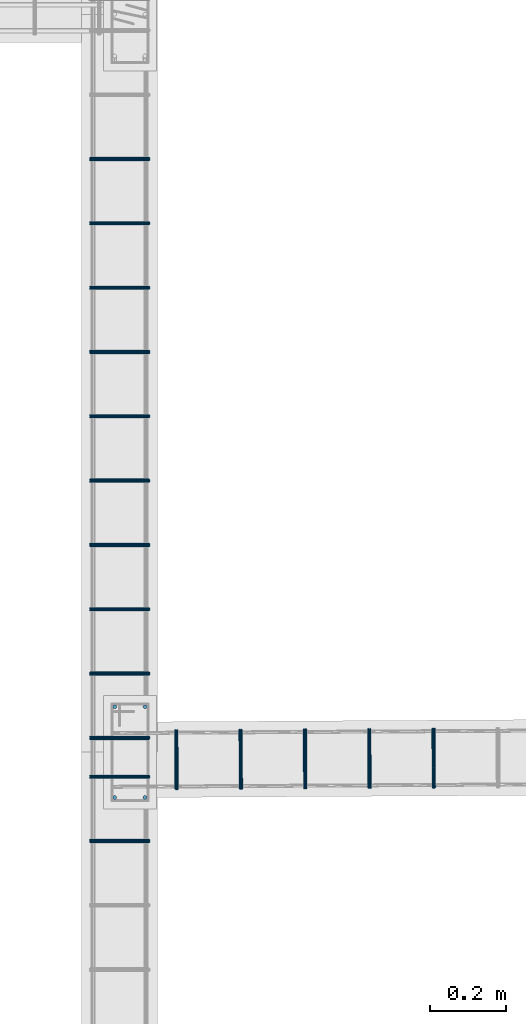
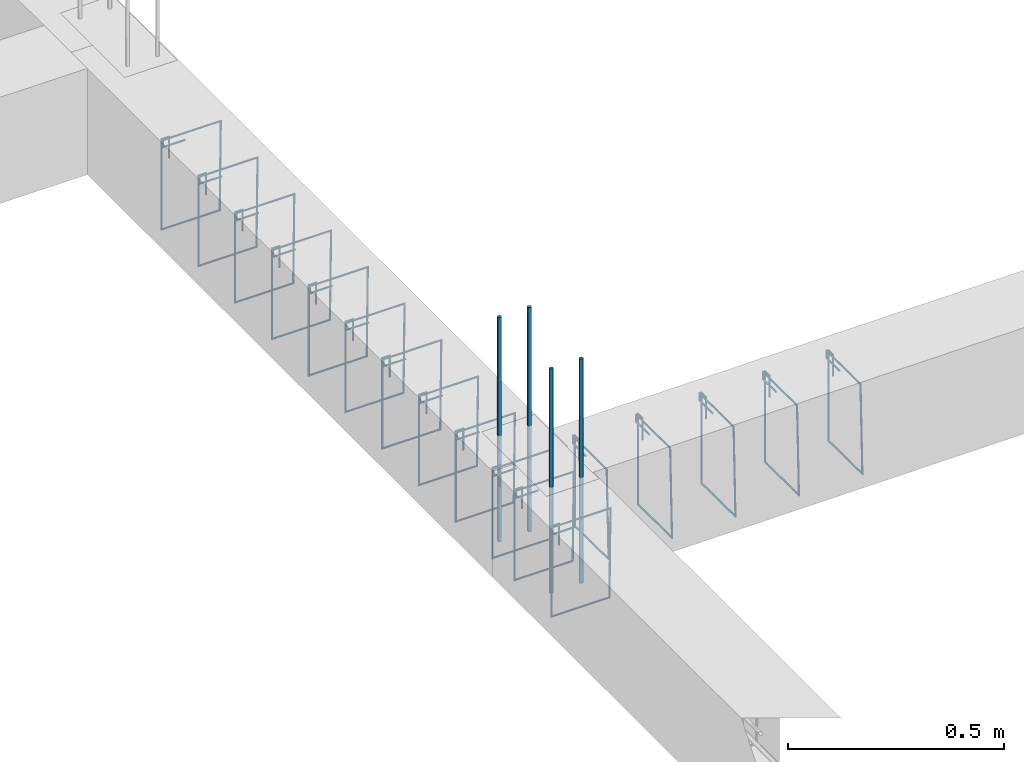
# One storey, part 33 of 150: 21 reinforcing bars.
"""IFC4 building model written with IfcOpenShell, lengths in centimetres."""

from ifc_helpers import new_model, entity, si_unit, derived_unit, frame, origin_with_axes, place, context, project, spatial, source, transform, mapped, element, save


model = new_model("IFC4")

# Units and contexts
model_context = context("Model", 3, precision=1e-05, world=origin_with_axes(), identifier="Body")
ifc_project = project(units=[si_unit("LENGTHUNIT", "METRE", prefix="CENTI"), si_unit("VOLUMEUNIT", "CUBIC_METRE"), si_unit("AREAUNIT", "SQUARE_METRE"), si_unit("POWERUNIT", "WATT"), si_unit("LUMINOUSFLUXUNIT", "LUMEN"), si_unit("ELECTRICCURRENTUNIT", "AMPERE"), si_unit("PRESSUREUNIT", "PASCAL", prefix="KILO"), si_unit("MASSUNIT", "GRAM", prefix="KILO"), si_unit("PLANEANGLEUNIT", "RADIAN"), derived_unit("VOLUMETRICFLOWRATEUNIT", [(si_unit("LENGTHUNIT", "METRE"), 3), (si_unit("TIMEUNIT", "SECOND"), -1)])], contexts=[model_context])

# Site, building, storey
site_placement = place(None, frame((-4000.0, 0.0, 0.0), z_axis=(0.0, 0.0, 1.0), x_axis=(1.0, 0.0, 0.0)))
site = spatial("IfcSite", under=ifc_project, at=site_placement, Name="PADRÃO")
building_placement = place(site_placement, frame((0.0, 0.0, -14.0)))
building = spatial("IfcBuilding", under=site, at=building_placement, Name="CRECHE PRÉ-ESCOLA TIPO 2")
placement = place(building_placement, origin_with_axes())
storey_placement = place(placement, frame((0.0, 0.0, 30.0), z_axis=(0.0, 0.0, 1.0), x_axis=(1.0, 0.0, 0.0)))
storey = spatial("IfcBuildingStorey", under=building, at=storey_placement, Name="VIGA BALDRAME", CompositionType="ELEMENT", Elevation=16.0)

# Reinforcing bars
shared_shape_1 = source(origin_with_axes(), model_context, "Body", "AdvancedSweptSolid", [
    entity("IfcSweptDiskSolid", entity("IfcCompositeCurve", [entity("IfcCompositeCurveSegment", "CONTINUOUS", True, entity("IfcPolyline", [entity("IfcCartesianPoint", [2.0, -6.0, 0.0]), entity("IfcCartesianPoint", [2.0, 0.0, 0.0])])), entity("IfcCompositeCurveSegment", "CONTINUOUS", True, entity("IfcPolyline", [entity("IfcCartesianPoint", [2.0, 0.0, 0.0]), entity("IfcCartesianPoint", [0.0, 0.0, 0.0])])), entity("IfcCompositeCurveSegment", "CONTINUOUS", True, entity("IfcPolyline", [entity("IfcCartesianPoint", [0.0, 0.0, 0.0]), entity("IfcCartesianPoint", [0.0, -25.5, 0.0])])), entity("IfcCompositeCurveSegment", "CONTINUOUS", True, entity("IfcPolyline", [entity("IfcCartesianPoint", [0.0, -25.5, 0.0]), entity("IfcCartesianPoint", [15.5, -25.5, 0.0])])), entity("IfcCompositeCurveSegment", "CONTINUOUS", True, entity("IfcPolyline", [entity("IfcCartesianPoint", [15.5, -25.5, 0.0]), entity("IfcCartesianPoint", [15.5, 0.0, 0.5])])), entity("IfcCompositeCurveSegment", "CONTINUOUS", True, entity("IfcPolyline", [entity("IfcCartesianPoint", [15.5, 0.0, 0.5]), entity("IfcCartesianPoint", [0.0, 0.0, 0.5])])), entity("IfcCompositeCurveSegment", "CONTINUOUS", True, entity("IfcPolyline", [entity("IfcCartesianPoint", [0.0, 0.0, 0.5]), entity("IfcCartesianPoint", [0.0, -2.0, 0.5])])), entity("IfcCompositeCurveSegment", "CONTINUOUS", True, entity("IfcPolyline", [entity("IfcCartesianPoint", [0.0, -2.0, 0.5]), entity("IfcCartesianPoint", [6.0, -2.0, 0.5])]))], False), 0.25),
])
for number, where, z_axis, x_axis, name in (
    (1, (1131.23670331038, 839.2725177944, -2.25), (-1.0, -0.005870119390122, 0.0), (0.005870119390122, -1.0, 0.0), "V145 - Estribo"),
    (2, (1148.23641041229, 839.372309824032, -2.25), (-1.0, -0.005870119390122, 0.0), (0.005870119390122, -1.0, 0.0), "V145 - Estribo"),
    (3, (1165.23611751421, 839.472101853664, -2.25), (-1.0, -0.005870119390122, 0.0), (0.005870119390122, -1.0, 0.0), "V145 - Estribo"),
    (4, (1182.23582461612, 839.571893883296, -2.25), (-1.0, -0.005870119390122, 0.0), (0.005870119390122, -1.0, 0.0), "V145 - Estribo"),
    (5, (1199.23553171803, 839.671685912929, -2.25), (-1.0, -0.005870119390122, 0.0), (0.005870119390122, -1.0, 0.0), "V145 - Estribo"),
):
    element("IfcReinforcingBar", number, at=place(storey_placement, frame(where, z_axis=z_axis, x_axis=x_axis)), inside=storey, Name=name, BarLength=0.0, CrossSectionArea=1.9634954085e-05, NominalDiameter=0.5, PredefinedType="MAIN", context=model_context, shape_type="MappedRepresentation", body=[
        mapped(shared_shape_1, transform((0.0, 0.0, 0.0), scale=1.0)),
    ])
shared_shape_2 = source(origin_with_axes(), model_context, "Body", "AdvancedSweptSolid", [
    entity("IfcSweptDiskSolid", entity("IfcCompositeCurve", [entity("IfcCompositeCurveSegment", "CONTINUOUS", True, entity("IfcPolyline", [entity("IfcCartesianPoint", [2.0, -6.0, 0.0]), entity("IfcCartesianPoint", [2.0, 0.0, 0.0])])), entity("IfcCompositeCurveSegment", "CONTINUOUS", True, entity("IfcPolyline", [entity("IfcCartesianPoint", [2.0, 0.0, 0.0]), entity("IfcCartesianPoint", [0.0, 0.0, 0.0])])), entity("IfcCompositeCurveSegment", "CONTINUOUS", True, entity("IfcPolyline", [entity("IfcCartesianPoint", [0.0, 0.0, 0.0]), entity("IfcCartesianPoint", [0.0, -25.5, 0.0])])), entity("IfcCompositeCurveSegment", "CONTINUOUS", True, entity("IfcPolyline", [entity("IfcCartesianPoint", [0.0, -25.5, 0.0]), entity("IfcCartesianPoint", [15.5, -25.5, 0.0])])), entity("IfcCompositeCurveSegment", "CONTINUOUS", True, entity("IfcPolyline", [entity("IfcCartesianPoint", [15.5, -25.5, 0.0]), entity("IfcCartesianPoint", [15.5, 0.0, 0.5])])), entity("IfcCompositeCurveSegment", "CONTINUOUS", True, entity("IfcPolyline", [entity("IfcCartesianPoint", [15.5, 0.0, 0.5]), entity("IfcCartesianPoint", [0.0, 0.0, 0.5])])), entity("IfcCompositeCurveSegment", "CONTINUOUS", True, entity("IfcPolyline", [entity("IfcCartesianPoint", [0.0, 0.0, 0.5]), entity("IfcCartesianPoint", [0.0, -2.0, 0.5])])), entity("IfcCompositeCurveSegment", "CONTINUOUS", True, entity("IfcPolyline", [entity("IfcCartesianPoint", [0.0, -2.0, 0.5]), entity("IfcCartesianPoint", [6.0, -2.0, 0.5])]))], False), 0.25),
])
for number, where, z_axis, x_axis, name in (
    (6, (1108.25, 810.255, -2.25), (0.0, -1.0, 0.0), (1.0, 0.0, 0.0), "V182 - Estribo"),
    (7, (1108.25, 827.255, -2.25), (0.0, -1.0, 0.0), (1.0, 0.0, 0.0), "V182 - Estribo"),
):
    element("IfcReinforcingBar", number, at=place(storey_placement, frame(where, z_axis=z_axis, x_axis=x_axis)), inside=storey, Name=name, BarLength=0.0, CrossSectionArea=1.9634954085e-05, NominalDiameter=0.5, PredefinedType="MAIN", context=model_context, shape_type="MappedRepresentation", body=[
        mapped(shared_shape_2, transform((0.0, 0.0, 0.0), scale=1.0)),
    ])
shared_shape_3 = source(origin_with_axes(), model_context, "Body", "AdvancedSweptSolid", [
    entity("IfcSweptDiskSolid", entity("IfcCompositeCurve", [entity("IfcCompositeCurveSegment", "CONTINUOUS", True, entity("IfcPolyline", [entity("IfcCartesianPoint", [2.0, -6.0, 0.0]), entity("IfcCartesianPoint", [2.0, 0.0, 0.0])])), entity("IfcCompositeCurveSegment", "CONTINUOUS", True, entity("IfcPolyline", [entity("IfcCartesianPoint", [2.0, 0.0, 0.0]), entity("IfcCartesianPoint", [0.0, 0.0, 0.0])])), entity("IfcCompositeCurveSegment", "CONTINUOUS", True, entity("IfcPolyline", [entity("IfcCartesianPoint", [0.0, 0.0, 0.0]), entity("IfcCartesianPoint", [0.0, -25.5, 0.0])])), entity("IfcCompositeCurveSegment", "CONTINUOUS", True, entity("IfcPolyline", [entity("IfcCartesianPoint", [0.0, -25.5, 0.0]), entity("IfcCartesianPoint", [15.5, -25.5, 0.0])])), entity("IfcCompositeCurveSegment", "CONTINUOUS", True, entity("IfcPolyline", [entity("IfcCartesianPoint", [15.5, -25.5, 0.0]), entity("IfcCartesianPoint", [15.5, 0.0, 0.5])])), entity("IfcCompositeCurveSegment", "CONTINUOUS", True, entity("IfcPolyline", [entity("IfcCartesianPoint", [15.5, 0.0, 0.5]), entity("IfcCartesianPoint", [0.0, 0.0, 0.5])])), entity("IfcCompositeCurveSegment", "CONTINUOUS", True, entity("IfcPolyline", [entity("IfcCartesianPoint", [0.0, 0.0, 0.5]), entity("IfcCartesianPoint", [0.0, -2.0, 0.5])])), entity("IfcCompositeCurveSegment", "CONTINUOUS", True, entity("IfcPolyline", [entity("IfcCartesianPoint", [0.0, -2.0, 0.5]), entity("IfcCartesianPoint", [6.0, -2.0, 0.5])]))], False), 0.25),
])
for number, where, z_axis, x_axis, name in (
    (8, (1108.25, 990.5, -2.25), (0.0, -1.0, 0.0), (1.0, 0.0, 0.0), "V182 - Estribo"),
    (9, (1108.25, 973.5, -2.25), (0.0, -1.0, 0.0), (1.0, 0.0, 0.0), "V182 - Estribo"),
    (10, (1108.25, 905.5, -2.25), (0.0, -1.0, 0.0), (1.0, 0.0, 0.0), "V182 - Estribo"),
    (11, (1108.25, 922.5, -2.25), (0.0, -1.0, 0.0), (1.0, 0.0, 0.0), "V182 - Estribo"),
    (12, (1108.25, 939.5, -2.25), (0.0, -1.0, 0.0), (1.0, 0.0, 0.0), "V182 - Estribo"),
    (13, (1108.25, 956.5, -2.25), (0.0, -1.0, 0.0), (1.0, 0.0, 0.0), "V182 - Estribo"),
    (14, (1108.25, 837.5, -2.25), (0.0, -1.0, 0.0), (1.0, 0.0, 0.0), "V182 - Estribo"),
    (15, (1108.25, 854.5, -2.25), (0.0, -1.0, 0.0), (1.0, 0.0, 0.0), "V182 - Estribo"),
    (16, (1108.25, 871.5, -2.25), (0.0, -1.0, 0.0), (1.0, 0.0, 0.0), "V182 - Estribo"),
    (17, (1108.25, 888.5, -2.25), (0.0, -1.0, 0.0), (1.0, 0.0, 0.0), "V182 - Estribo"),
):
    element("IfcReinforcingBar", number, at=place(storey_placement, frame(where, z_axis=z_axis, x_axis=x_axis)), inside=storey, Name=name, BarLength=0.0, CrossSectionArea=1.9634954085e-05, NominalDiameter=0.5, PredefinedType="MAIN", context=model_context, shape_type="MappedRepresentation", body=[
        mapped(shared_shape_3, transform((0.0, 0.0, 0.0), scale=1.0)),
    ])
for number, where, z_axis, x_axis, name in (
    (18, (1122.72, 845.5, 33.3573001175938), (0.0, 0.0, 1.0), (1.0, 0.0, 0.0), "P126 - Longitudinal"),
    (19, (1114.72, 845.5, 33.3573001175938), (0.0, 0.0, 1.0), (1.0, 0.0, 0.0), "P126 - Longitudinal"),
    (20, (1114.72, 821.5, 33.3573001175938), (0.0, 0.0, 1.0), (1.0, 0.0, 0.0), "P126 - Longitudinal"),
    (21, (1122.72, 821.5, 33.3573001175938), (0.0, 0.0, 1.0), (1.0, 0.0, 0.0), "P126 - Longitudinal"),
):
    element("IfcReinforcingBar", number, at=place(storey_placement, frame(where, z_axis=z_axis, x_axis=x_axis)), inside=storey, Name=name, BarLength=0.0, CrossSectionArea=7.853981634e-05, NominalDiameter=1.0, PredefinedType="MAIN", context=model_context, shape_type="AdvancedSweptSolid", body=[
        entity("IfcSweptDiskSolid", entity("IfcCompositeCurve", [entity("IfcCompositeCurveSegment", "CONTINUOUS", True, entity("IfcPolyline", [entity("IfcCartesianPoint", [0.0, 0.0, -63.3573001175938]), entity("IfcCartesianPoint", [0.0, 0.0, 0.0])]))], False), 0.5),
    ])

save(model, "model.ifc")
